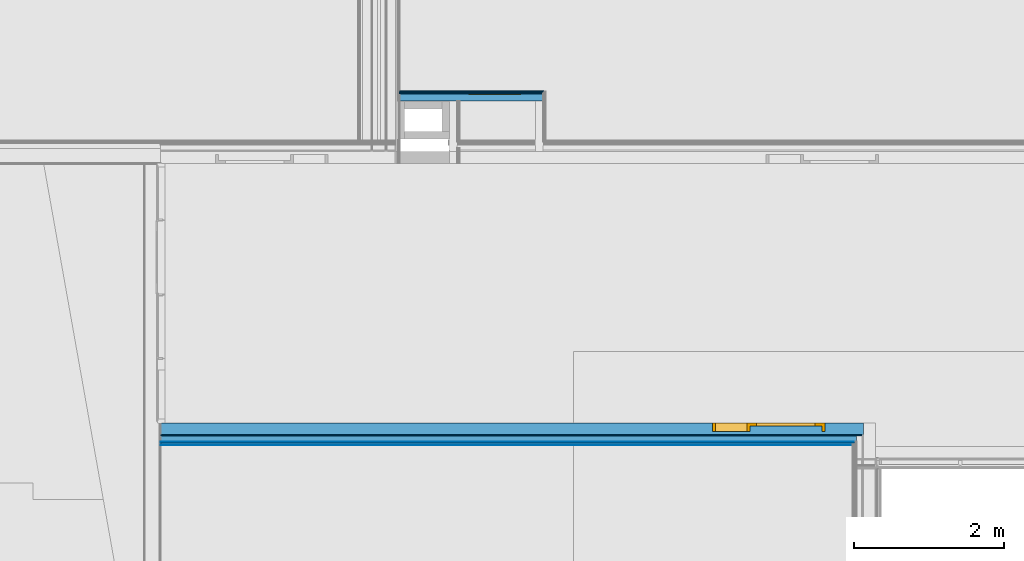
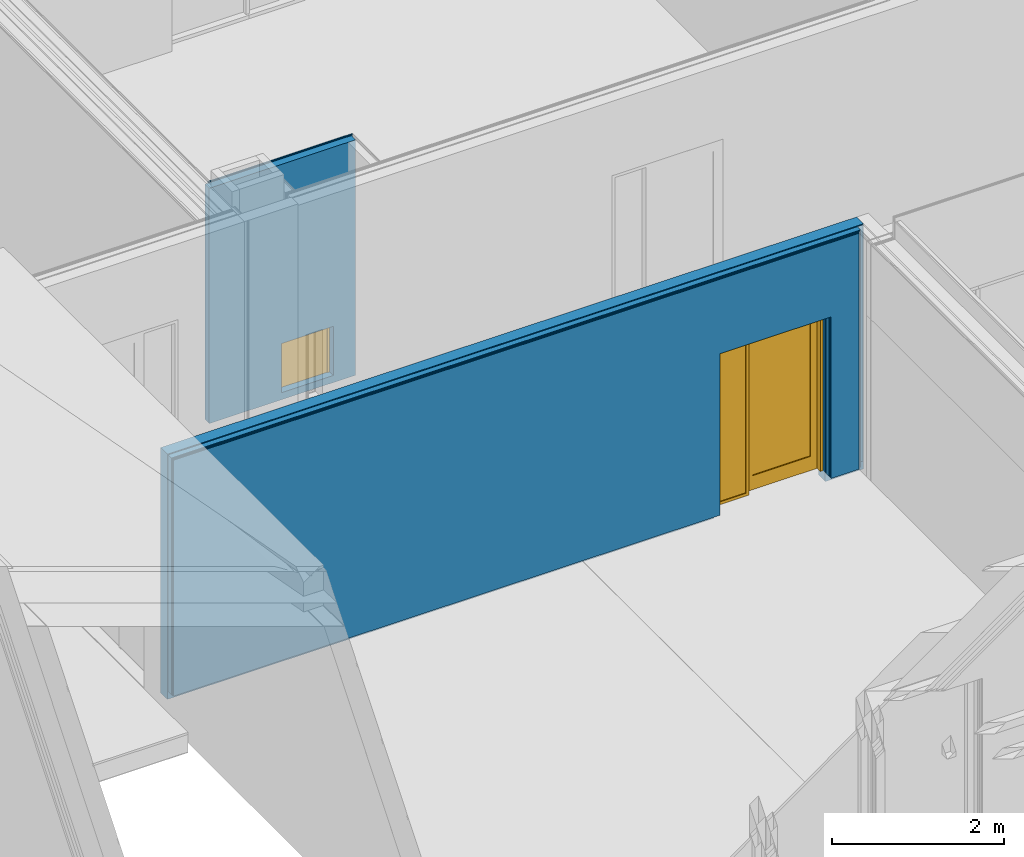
# One storey, part 22 of 139: 11 building element parts, 2 doors, 3 openings, 2 elements without a shape of their own.
"""IFC2X3 building model written with IfcOpenShell, lengths in millimetres."""

from ifc_helpers import new_model, entity, si_unit, converted_unit, derived_unit, money_unit, direction, frame, origin_with_axes, place, context, subcontext, project, spatial, open_shell, faceted_brep, surface_model, source, transform, mapped, material, type_object, element, fill, aggregate, save


model = new_model("IFC2X3")

# Units and contexts
model_context = context("Model", 3, precision=0.01, world=origin_with_axes(), true_north=direction((0.0, 1.0)))
body_context = subcontext(model_context, "Body", "Model", "MODEL_VIEW")
ifc_project = project(units=[si_unit("LENGTHUNIT", "METRE", prefix="MILLI"), si_unit("AREAUNIT", "SQUARE_METRE"), si_unit("VOLUMEUNIT", "CUBIC_METRE"), converted_unit("PLANEANGLEUNIT", "DEGREE", entity("IfcPlaneAngleMeasure", 0.0174532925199), si_unit("PLANEANGLEUNIT", "RADIAN"), dimensions=[0, 0, 0, 0, 0, 0, 0]), money_unit("EUR"), converted_unit("TIMEUNIT", "Year", entity("IfcTimeMeasure", 31556926.0), si_unit("TIMEUNIT", "SECOND"), dimensions=[0, 0, 1, 0, 0, 0, 0]), si_unit("MASSUNIT", "GRAM", prefix="KILO"), si_unit("THERMODYNAMICTEMPERATUREUNIT", "DEGREE_CELSIUS"), si_unit("LUMINOUSINTENSITYUNIT", "LUMEN"), si_unit("ENERGYUNIT", "JOULE", prefix="MEGA"), derived_unit("THERMALCONDUCTANCEUNIT", [(si_unit("POWERUNIT", "WATT"), 1), (si_unit("LENGTHUNIT", "METRE"), -1), (si_unit("THERMODYNAMICTEMPERATUREUNIT", "KELVIN"), -1)]), derived_unit("SPECIFICHEATCAPACITYUNIT", [(si_unit("ENERGYUNIT", "JOULE"), 1), (si_unit("MASSUNIT", "GRAM", prefix="KILO"), -1), (si_unit("THERMODYNAMICTEMPERATUREUNIT", "KELVIN"), -1)]), derived_unit("MASSDENSITYUNIT", [(si_unit("MASSUNIT", "GRAM", prefix="KILO"), 1), (si_unit("VOLUMEUNIT", "CUBIC_METRE"), -1)])], contexts=[model_context])

# Site, building, storey
site_placement = place(None, origin_with_axes())
site = spatial("IfcSite", under=ifc_project, at=site_placement, Name="Kolde pst 67a", CompositionType="ELEMENT")
building_placement = place(site_placement, origin_with_axes())
building = spatial("IfcBuilding", under=site, at=building_placement, Name="Riigigümnaasium", CompositionType="ELEMENT")
storey_placement = place(building_placement, frame((0.0, 0.0, 4600.0), z_axis=(0.0, 0.0, 1.0), x_axis=(1.0, 0.0, 0.0)))
storey = spatial("IfcBuildingStorey", under=building, at=storey_placement, Name="2. korrus", CompositionType="ELEMENT", Elevation=4600.0)

# Door
door_style_1 = type_object("IfcDoorStyle", Name="Door with Sidelight on Side 2 25", ConstructionType="NOTDEFINED", OperationType="SINGLE_SWING_RIGHT", ParameterTakesPrecedence=False, Sizeable=False)
shared_shape_1 = source(origin_with_axes(), body_context, "Body", "SurfaceModel", [
    faceted_brep([(-750.0, 0.0, 0.0), (-710.0, 0.0, 0.0), (-710.0, -115.0, 0.0), (-750.0, -115.0, 0.0), (-750.0, 0.0, 2260.0), (-710.0, 0.0, 2260.0), (-710.0, 0.0, 40.0), (-710.0, -115.0, 40.0), (-710.0, -115.0, 2260.0), (-750.0, -115.0, 2260.0)], [[[0, 1, 2, 3]], [[0, 4, 5, 6, 1]], [[1, 6, 7, 2]], [[3, 2, 7, 8, 9]], [[4, 0, 3, 9]], [[5, 4, 9, 8]], [[6, 5, 8, 7]]]),
    faceted_brep([(-250.0, -40.0, 0.0), (-250.0, -40.0, 2260.0), (-250.0, -115.0, 2260.0), (-250.0, -115.0, 0.0), (-262.0, -40.0, 2260.0), (-262.0, -40.0, 0.0), (-262.0, 0.0, 2260.0), (-290.0, 0.0, 2260.0), (-290.0, -115.0, 2260.0), (-290.0, -115.0, 0.0), (-290.0, -115.0, 40.0), (-290.0, 0.0, 0.0), (-262.0, 0.0, 0.0), (-290.0, 0.0, 40.0)], [[[0, 1, 2, 3]], [[4, 1, 0, 5]], [[4, 6, 7, 8, 2, 1]], [[9, 3, 2, 8, 10]], [[5, 0, 3, 9, 11, 12]], [[6, 4, 5, 12]], [[6, 12, 11, 13, 7]], [[13, 10, 8, 7]], [[11, 9, 10, 13]]]),
    faceted_brep([(-710.0, 0.0, 40.0), (-710.0, 0.0, 0.0), (-710.0, -115.0, 0.0), (-710.0, -115.0, 40.0), (-290.0, 0.0, 40.0), (-290.0, 0.0, 0.0), (-290.0, -115.0, 0.0), (-290.0, -115.0, 40.0)], [[[0, 1, 2, 3]], [[0, 4, 5, 1]], [[1, 5, 6, 2]], [[3, 2, 6, 7]], [[4, 0, 3, 7]], [[5, 4, 7, 6]]]),
    faceted_brep([(722.0, -40.0, 2260.0), (710.0, -40.0, 2260.0), (710.0, -115.0, 2260.0), (750.0, -115.0, 2260.0), (750.0, 0.0, 2260.0), (722.0, 0.0, 2260.0), (722.0, -40.0, 0.0), (710.0, -40.0, 0.0), (710.0, -115.0, 0.0), (750.0, -115.0, 0.0), (750.0, 0.0, 0.0), (722.0, 0.0, 0.0)], [[[0, 1, 2, 3, 4, 5]], [[1, 0, 6, 7]], [[1, 7, 8, 2]], [[3, 2, 8, 9]], [[4, 3, 9, 10]], [[11, 5, 4, 10]], [[0, 5, 11, 6]], [[6, 11, 10, 9, 8, 7]]]),
    faceted_brep([(-262.0, 0.0, 2272.0), (-262.0, 0.0, 2260.0), (-290.0, 0.0, 2260.0), (-710.0, 0.0, 2260.0), (-750.0, 0.0, 2260.0), (-750.0, 0.0, 2300.0), (750.0, 0.0, 2300.0), (750.0, 0.0, 2260.0), (722.0, 0.0, 2260.0), (722.0, 0.0, 2272.0), (-262.0, -40.0, 2272.0), (-262.0, -40.0, 2260.0), (710.0, -40.0, 2260.0), (710.0, -115.0, 2260.0), (-250.0, -115.0, 2260.0), (-290.0, -115.0, 2260.0), (-710.0, -115.0, 2260.0), (-750.0, -115.0, 2260.0), (-750.0, -115.0, 2300.0), (750.0, -115.0, 2300.0), (750.0, -115.0, 2260.0), (722.0, -40.0, 2260.0), (722.0, -40.0, 2272.0)], [[[0, 1, 2, 3, 4, 5, 6, 7, 8, 9]], [[1, 0, 10, 11]], [[11, 12, 13, 14, 15, 2, 1]], [[2, 15, 16, 3]], [[3, 16, 17, 4]], [[4, 17, 18, 5]], [[5, 18, 19, 6]], [[6, 19, 20, 7]], [[21, 8, 7, 20, 13, 12]], [[9, 8, 21, 22]], [[0, 9, 22, 10]], [[21, 12, 11, 10, 22]], [[13, 20, 19, 18, 17, 16, 15, 14]]]),
    faceted_brep([(722.0, 0.0, 200.0), (722.0, -40.0, 200.0), (622.0, -40.0, 200.0), (622.0, 0.0, 200.0), (722.0, 0.0, 2172.0), (722.0, -40.0, 2172.0), (622.0, -40.0, 2172.0), (622.0, 0.0, 2172.0)], [[[0, 1, 2, 3]], [[4, 5, 1, 0]], [[1, 5, 6, 2]], [[3, 2, 6, 7]], [[0, 3, 7, 4]], [[7, 6, 5, 4]]]),
    faceted_brep([(-262.0, 0.0, 200.0), (-262.0, -40.0, 200.0), (-262.0, -40.0, 2172.0), (-262.0, 0.0, 2172.0), (-162.0, 0.0, 200.0), (-162.0, -40.0, 200.0), (-162.0, -40.0, 2172.0), (-162.0, 0.0, 2172.0)], [[[0, 1, 2, 3]], [[4, 5, 1, 0]], [[1, 5, 6, 2]], [[3, 2, 6, 7]], [[0, 3, 7, 4]], [[7, 6, 5, 4]]]),
    faceted_brep([(722.0, 0.0, 0.0), (722.0, -40.0, 0.0), (-262.0, -40.0, 0.0), (-262.0, 0.0, 0.0), (722.0, 0.0, 200.0), (722.0, -40.0, 200.0), (622.0, -40.0, 200.0), (-162.0, -40.0, 200.0), (-262.0, -40.0, 200.0), (-262.0, 0.0, 200.0), (-162.0, 0.0, 200.0), (622.0, 0.0, 200.0)], [[[0, 1, 2, 3]], [[4, 5, 1, 0]], [[1, 5, 6, 7, 8, 2]], [[3, 2, 8, 9]], [[0, 3, 9, 10, 11, 4]], [[11, 6, 5, 4]], [[10, 7, 6, 11]], [[9, 8, 7, 10]]]),
    faceted_brep([(722.0, 0.0, 2272.0), (722.0, -40.0, 2272.0), (722.0, -40.0, 2172.0), (722.0, 0.0, 2172.0), (-262.0, 0.0, 2272.0), (-262.0, -40.0, 2272.0), (-262.0, -40.0, 2172.0), (-162.0, -40.0, 2172.0), (622.0, -40.0, 2172.0), (622.0, 0.0, 2172.0), (-162.0, 0.0, 2172.0), (-262.0, 0.0, 2172.0)], [[[0, 1, 2, 3]], [[4, 5, 1, 0]], [[1, 5, 6, 7, 8, 2]], [[3, 2, 8, 9]], [[0, 3, 9, 10, 11, 4]], [[11, 6, 5, 4]], [[10, 7, 6, 11]], [[9, 8, 7, 10]]]),
    surface_model("IfcShellBasedSurfaceModel", [(622.0, -14.0, 200.0), (-162.0, -14.0, 200.0), (-162.0, -14.0, 2172.0), (622.0, -14.0, 2172.0)], [open_shell([[[0, 1, 2, 3]]])]),
    surface_model("IfcShellBasedSurfaceModel", [(622.0, -26.0, 200.0), (622.0, -26.0, 2172.0), (-162.0, -26.0, 2172.0), (-162.0, -26.0, 200.0)], [open_shell([[[0, 1, 2, 3]]])]),
    surface_model("IfcShellBasedSurfaceModel", [(-710.0, -91.0, 40.0), (-710.0, -91.0, 2260.0), (-290.0, -91.0, 2260.0), (-290.0, -91.0, 40.0)], [open_shell([[[0, 1, 2, 3]]])]),
    surface_model("IfcShellBasedSurfaceModel", [(-710.0, -103.0, 40.0), (-290.0, -103.0, 40.0), (-290.0, -103.0, 2260.0), (-710.0, -103.0, 2260.0)], [open_shell([[[0, 1, 2, 3]]])]),
])
wall_1_placement = place(storey_placement, frame((3250.03768339, 55889.9944255, -130.0), z_axis=(0.0, 0.0, 1.0), x_axis=(0.999999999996, -2.92227305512e-06, 0.0)))
opening_1_placement = place(wall_1_placement, frame((8104.96061449, 0.0, 130.0), z_axis=(0.0, 0.0, 1.0), x_axis=(1.0, 0.0, 0.0)))
door_1_placement = place(opening_1_placement, frame((-750.0, 0.0, 0.0), z_axis=(0.0, 0.0, 1.0), x_axis=(1.0, 0.0, 0.0)))
door_1 = element("IfcDoor", 1, at=door_1_placement, inside=storey, type_object=door_style_1, Name="Siseuks", ObjectType="DOOR", OverallHeight=2300.0, OverallWidth=1500.0, context=body_context, shape_type="MappedRepresentation", body=[
    mapped(shared_shape_1, transform((750.0, 0.0, 0.0))),
])

door_style_2 = type_object("IfcDoorStyle", Name="Door 25", ConstructionType="NOTDEFINED", OperationType="SINGLE_SWING_LEFT", ParameterTakesPrecedence=False, Sizeable=False)
shared_shape_2 = source(origin_with_axes(), body_context, "Body", "Brep", [
    faceted_brep([(320.0, -40.0, 0.0), (320.0, -50.0, 0.0), (320.0, -50.0, 670.0), (320.0, -40.0, 670.0), (332.0, -40.0, 0.0), (332.0, 0.0, 0.0), (350.0, 0.0, 0.0), (350.0, -50.0, 0.0), (350.0, -50.0, 670.0), (332.0, -40.0, 670.0), (350.0, 0.0, 670.0), (332.0, 0.0, 670.0)], [[[0, 1, 2, 3]], [[4, 5, 6, 7, 1, 0]], [[1, 7, 8, 2]], [[9, 3, 2, 8, 10, 11]], [[9, 4, 0, 3]], [[11, 5, 4, 9]], [[11, 10, 6, 5]], [[6, 10, 8, 7]]]),
    faceted_brep([(-332.0, -40.0, 670.0), (-332.0, 0.0, 670.0), (-350.0, 0.0, 670.0), (-350.0, -50.0, 670.0), (-320.0, -50.0, 670.0), (-320.0, -40.0, 670.0), (-332.0, -40.0, 0.0), (-332.0, 0.0, 0.0), (-350.0, 0.0, 0.0), (-350.0, -50.0, 0.0), (-320.0, -50.0, 0.0), (-320.0, -40.0, 0.0)], [[[0, 1, 2, 3, 4, 5]], [[0, 6, 7, 1]], [[7, 8, 2, 1]], [[2, 8, 9, 3]], [[3, 9, 10, 4]], [[5, 4, 10, 11]], [[5, 11, 6, 0]], [[6, 11, 10, 9, 8, 7]]]),
    faceted_brep([(332.0, 0.0, 682.0), (-332.0, 0.0, 682.0), (-332.0, 0.0, 670.0), (-350.0, 0.0, 670.0), (-350.0, 0.0, 700.0), (350.0, 0.0, 700.0), (350.0, 0.0, 670.0), (332.0, 0.0, 670.0), (332.0, -40.0, 682.0), (-332.0, -40.0, 682.0), (-332.0, -40.0, 670.0), (-320.0, -40.0, 670.0), (-320.0, -50.0, 670.0), (-350.0, -50.0, 670.0), (-350.0, -50.0, 700.0), (350.0, -50.0, 700.0), (350.0, -50.0, 670.0), (332.0, -40.0, 670.0), (320.0, -50.0, 670.0), (320.0, -40.0, 670.0)], [[[0, 1, 2, 3, 4, 5, 6, 7]], [[0, 8, 9, 1]], [[1, 9, 10, 2]], [[10, 11, 12, 13, 3, 2]], [[4, 3, 13, 14]], [[5, 4, 14, 15]], [[6, 5, 15, 16]], [[17, 7, 6, 16, 18, 19]], [[7, 17, 8, 0]], [[10, 9, 8, 17, 19, 11]], [[19, 18, 12, 11]], [[12, 18, 16, 15, 14, 13]]]),
    faceted_brep([(-332.0, 0.0, 0.0), (332.0, 0.0, 0.0), (332.0, -40.0, 0.0), (-332.0, -40.0, 0.0), (-332.0, 0.0, 682.0), (332.0, 0.0, 682.0), (332.0, -40.0, 682.0), (-332.0, -40.0, 682.0)], [[[0, 1, 2, 3]], [[0, 4, 5, 1]], [[1, 5, 6, 2]], [[3, 2, 6, 7]], [[4, 0, 3, 7]], [[5, 4, 7, 6]]]),
])
wall_2_placement = place(storey_placement, frame((5884.99783254, 60314.9986956, 0.0), z_axis=(0.0, 0.0, 1.0), x_axis=(1.0, 0.0, 0.0)))
opening_2_placement = place(wall_2_placement, frame((1816.83410384, 0.0, 100.0), z_axis=(0.0, 0.0, 1.0), x_axis=(1.0, 0.0, 0.0)))
door_2_placement = place(opening_2_placement, frame((-350.0, 0.0, 0.0), z_axis=(0.0, 0.0, 1.0), x_axis=(1.0, 0.0, 0.0)))
door_2 = element("IfcDoor", 2, at=door_2_placement, inside=storey, type_object=door_style_2, Name="Hooldusluuk vastavalt SA osale", ObjectType="DOOR", OverallHeight=700.0, OverallWidth=700.0, context=body_context, shape_type="MappedRepresentation", body=[
    mapped(shared_shape_2, transform((350.0, 0.0, 0.0))),
])

# Wall, opening
wall_type_1 = type_object("IfcWallType", Name="SS-CLT-16/1_vill75+krohv 52 dB 300", PredefinedType="NOTDEFINED")
wall_1 = element("IfcWall", 3, at=wall_1_placement, inside=storey, type_object=wall_type_1, Name="Sisesein")
opening_1 = element("IfcOpeningElement", 4, at=opening_1_placement, cuts=wall_1, Name="Siseuks", context=body_context, shape_type="Brep", body=[
    faceted_brep([(750.0, -300.0, 2300.0), (750.0, -300.0, 0.0), (750.0, 600.0, 0.0), (750.0, 600.0, 2300.0), (-750.0, -300.0, 2300.0), (-750.0, -300.0, 0.0), (-750.0, 600.0, 0.0), (-750.0, 600.0, 2300.0)], [[[0, 1, 2, 3]], [[0, 4, 5, 1]], [[1, 5, 6, 2]], [[3, 2, 6, 7]], [[4, 0, 3, 7]], [[5, 4, 7, 6]]]),
])

fill(opening_1, door_1)

# Building element part
ifc_material_1 = material(Name="_KANDETARIND - CLT ristkihtliimpuit vastavalt EK osale, CLT paigaldusvuugid teibitakse ROTHOBLAAS teibiga")
building_element_part_1_placement = place(wall_1_placement, origin_with_axes())
building_element_part_1 = element("IfcBuildingElementPart", 5, at=building_element_part_1_placement, material=ifc_material_1, Name="_KANDETARIND - CLT ristkihtliimpuit vastavalt EK osale, CLT paigaldusvuugid teibitakse ROTHOBLAAS teibiga", context=body_context, shape_type="Brep", body=[
    faceted_brep([(0.0, 0.0, 3489.0), (9369.95981086, 0.0, 3489.0), (9369.95981086, 0.0, 0.0), (8854.96061449, 0.0, 0.0), (8854.96061449, 0.0, 130.0), (8854.96061449, 0.0, 2430.0), (7354.96061449, 0.0, 2430.0), (7354.96061449, 0.0, 130.0), (7354.96061449, 0.0, 0.0), (0.0, 0.0, 0.0), (9369.96027842, -160.0, 3489.0), (0.0, -160.0, 3489.0), (9369.96027842, -160.0, 0.0), (8854.96061449, -160.0, 0.0), (8854.96061449, -160.0, 130.0), (8854.96061449, -160.0, 2430.0), (7354.96061449, -160.0, 2430.0), (7354.96061449, -160.0, 130.0), (7354.96061449, -160.0, 0.0), (0.0, -160.0, 0.0)], [[[0, 1, 2, 3, 4, 5, 6, 7, 8, 9]], [[10, 1, 0, 11]], [[1, 10, 12, 2]], [[13, 3, 2, 12]], [[13, 14, 4, 3]], [[15, 5, 4, 14]], [[16, 6, 5, 15]], [[17, 7, 6, 16]], [[8, 7, 17, 18]], [[8, 18, 19, 9]], [[11, 0, 9, 19]], [[10, 11, 19, 18, 17, 16, 15, 14, 13, 12]]]),
])

ifc_material_2 = material(Name="_ÕHKVAHE")
building_element_part_2_placement = place(wall_1_placement, origin_with_axes())
building_element_part_2 = element("IfcBuildingElementPart", 6, at=building_element_part_2_placement, material=ifc_material_2, Name="_ÕHKVAHE", context=body_context, shape_type="Brep", body=[
    faceted_brep([(0.0, -160.0, 3489.0), (9354.96027842, -160.0, 3489.0), (9354.96027842, -160.0, 127.0), (8854.96061449, -160.0, 127.0), (8854.96061449, -160.0, 130.0), (8854.96061449, -160.0, 2430.0), (7354.96061449, -160.0, 2430.0), (7354.96061449, -160.0, 130.0), (7354.96061449, -160.0, 127.0), (0.0, -160.0, 127.0), (9354.96032226, -175.0, 3489.0), (0.0, -175.0, 3489.0), (9354.96032226, -175.0, 127.0), (8854.96061449, -175.0, 127.0), (8854.96061449, -175.0, 130.0), (8854.96061449, -175.0, 2430.0), (7354.96061449, -175.0, 2430.0), (7354.96061449, -175.0, 130.0), (7354.96061449, -175.0, 127.0), (0.0, -175.0, 127.0)], [[[0, 1, 2, 3, 4, 5, 6, 7, 8, 9]], [[10, 1, 0, 11]], [[1, 10, 12, 2]], [[13, 3, 2, 12]], [[13, 14, 4, 3]], [[15, 5, 4, 14]], [[16, 6, 5, 15]], [[17, 7, 6, 16]], [[8, 7, 17, 18]], [[8, 18, 19, 9]], [[11, 0, 9, 19]], [[10, 11, 19, 18, 17, 16, 15, 14, 13, 12]]]),
])

ifc_material_3 = material(Name="_KARKASS - metallkarkass CW 75/50/06 ja UW 75/40/06, samm 600, vahel mineraalvill, helineeldetegur αw = 1.0,  ISOVER ACOUSTIC 75mm või samaväärne")
building_element_part_3_placement = place(wall_1_placement, origin_with_axes())
building_element_part_3 = element("IfcBuildingElementPart", 7, at=building_element_part_3_placement, material=ifc_material_3, Name="_KARKASS - metallkarkass CW 75/50/06 ja UW 75/40/06, samm 600, vahel mineraalvill, helineeldetegur αw = 1.0,  ISOVER ACOUSTIC 75mm või samaväärne", context=body_context, shape_type="Brep", body=[
    faceted_brep([(0.0, -175.0, 3489.0), (9279.96032226, -175.0, 3489.0), (9279.96032226, -175.0, 127.0), (8854.96061449, -175.0, 127.0), (8854.96061449, -175.0, 130.0), (8854.96061449, -175.0, 2430.0), (7354.96061449, -175.0, 2430.0), (7354.96061449, -175.0, 130.0), (7354.96061449, -175.0, 127.0), (0.0, -175.0, 127.0), (9279.96054143, -250.0, 3489.0), (0.0, -250.0, 3489.0), (9279.96054143, -250.0, 127.0), (8854.96061449, -250.0, 127.0), (8854.96061449, -250.0, 130.0), (8854.96061449, -250.0, 2430.0), (7354.96061449, -250.0, 2430.0), (7354.96061449, -250.0, 130.0), (7354.96061449, -250.0, 127.0), (0.0, -250.0, 127.0)], [[[0, 1, 2, 3, 4, 5, 6, 7, 8, 9]], [[10, 1, 0, 11]], [[1, 10, 12, 2]], [[13, 3, 2, 12]], [[13, 14, 4, 3]], [[15, 5, 4, 14]], [[16, 6, 5, 15]], [[17, 7, 6, 16]], [[8, 7, 17, 18]], [[8, 18, 19, 9]], [[11, 0, 9, 19]], [[10, 11, 19, 18, 17, 16, 15, 14, 13, 12]]]),
])

ifc_material_4 = material(Name="_PLAATMATERJAL - OSB3 plaat")
building_element_part_4_placement = place(wall_1_placement, origin_with_axes())
building_element_part_4 = element("IfcBuildingElementPart", 8, at=building_element_part_4_placement, material=ifc_material_4, Name="_PLAATMATERJAL - OSB3 plaat", context=body_context, shape_type="Brep", body=[
    faceted_brep([(0.0, -250.0, 3489.0), (9269.96054143, -250.0, 3489.0), (9269.96054143, -250.0, 127.0), (8854.96061449, -250.0, 127.0), (8854.96061449, -250.0, 130.0), (8854.96061449, -250.0, 2430.0), (7354.96061449, -250.0, 2430.0), (7354.96061449, -250.0, 130.0), (7354.96061449, -250.0, 127.0), (0.0, -250.0, 127.0), (9269.96057065, -260.0, 3489.0), (0.0, -260.0, 3489.0), (9269.96057065, -260.0, 127.0), (8854.96061449, -260.0, 127.0), (8854.96061449, -260.0, 130.0), (8854.96061449, -260.0, 2430.0), (7354.96061449, -260.0, 2430.0), (7354.96061449, -260.0, 130.0), (7354.96061449, -260.0, 127.0), (0.0, -260.0, 127.0)], [[[0, 1, 2, 3, 4, 5, 6, 7, 8, 9]], [[10, 1, 0, 11]], [[1, 10, 12, 2]], [[13, 3, 2, 12]], [[13, 14, 4, 3]], [[15, 5, 4, 14]], [[16, 6, 5, 15]], [[17, 7, 6, 16]], [[8, 7, 17, 18]], [[8, 18, 19, 9]], [[11, 0, 9, 19]], [[10, 11, 19, 18, 17, 16, 15, 14, 13, 12]]]),
])

ifc_material_5 = material(Name="_PLAATMATERJAL - tuletõkkekipsplaat, Knauf Red GKF või samaväärne")
building_element_part_5_placement = place(wall_1_placement, origin_with_axes())
building_element_part_5 = element("IfcBuildingElementPart", 9, at=building_element_part_5_placement, material=ifc_material_5, Name="_PLAATMATERJAL - tuletõkkekipsplaat, Knauf Red GKF või samaväärne", context=body_context, shape_type="Brep", body=[
    faceted_brep([(0.0, -260.0, 3489.0), (9254.96057065, -260.0, 3489.0), (9254.96057065, -260.0, 127.0), (8854.96061449, -260.0, 127.0), (8854.96061449, -260.0, 130.0), (8854.96061449, -260.0, 2430.0), (7354.96061449, -260.0, 2430.0), (7354.96061449, -260.0, 130.0), (7354.96061449, -260.0, 127.0), (0.0, -260.0, 127.0), (9254.96061448, -275.0, 3489.0), (0.0, -275.0, 3489.0), (9254.96061448, -275.0, 127.0), (8854.96061449, -275.0, 127.0), (8854.96061449, -275.0, 130.0), (8854.96061449, -275.0, 2430.0), (7354.96061449, -275.0, 2430.0), (7354.96061449, -275.0, 130.0), (7354.96061449, -275.0, 127.0), (0.0, -275.0, 127.0)], [[[0, 1, 2, 3, 4, 5, 6, 7, 8, 9]], [[10, 1, 0, 11]], [[1, 10, 12, 2]], [[13, 3, 2, 12]], [[13, 14, 4, 3]], [[15, 5, 4, 14]], [[16, 6, 5, 15]], [[17, 7, 6, 16]], [[8, 7, 17, 18]], [[8, 18, 19, 9]], [[11, 0, 9, 19]], [[10, 11, 19, 18, 17, 16, 15, 14, 13, 12]]]),
])

building_element_part_6_placement = place(wall_1_placement, origin_with_axes())
building_element_part_6 = element("IfcBuildingElementPart", 10, at=building_element_part_6_placement, material=ifc_material_5, Name="_PLAATMATERJAL - tuletõkkekipsplaat, Knauf Red GKF või samaväärne", context=body_context, shape_type="Brep", body=[
    faceted_brep([(0.0, -275.0, 3489.0), (9239.96061448, -275.0, 3489.0), (9239.96061448, -275.0, 127.0), (8854.96061449, -275.0, 127.0), (8854.96061449, -275.0, 130.0), (8854.96061449, -275.0, 2430.0), (7354.96061449, -275.0, 2430.0), (7354.96061449, -275.0, 130.0), (7354.96061449, -275.0, 127.0), (0.0, -275.0, 127.0), (9239.96065832, -290.0, 3489.0), (0.0, -290.0, 3489.0), (9239.96065832, -290.0, 127.0), (8854.96061449, -290.0, 127.0), (8854.96061449, -290.0, 130.0), (8854.96061449, -290.0, 2430.0), (7354.96061449, -290.0, 2430.0), (7354.96061449, -290.0, 130.0), (7354.96061449, -290.0, 127.0), (0.0, -290.0, 127.0)], [[[0, 1, 2, 3, 4, 5, 6, 7, 8, 9]], [[10, 1, 0, 11]], [[1, 10, 12, 2]], [[13, 3, 2, 12]], [[13, 14, 4, 3]], [[15, 5, 4, 14]], [[16, 6, 5, 15]], [[17, 7, 6, 16]], [[8, 7, 17, 18]], [[8, 18, 19, 9]], [[11, 0, 9, 19]], [[10, 11, 19, 18, 17, 16, 15, 14, 13, 12]]]),
])

ifc_material_6 = material(Name="_VIIMISTLUSKIHT - viimistlus vastavalt SA osale")
building_element_part_7_placement = place(wall_1_placement, origin_with_axes())
building_element_part_7 = element("IfcBuildingElementPart", 11, at=building_element_part_7_placement, material=ifc_material_6, Name="_VIIMISTLUSKIHT - viimistlus vastavalt SA osale", context=body_context, shape_type="Brep", body=[
    faceted_brep([(0.0, -290.0, 3489.0), (9229.96065832, -290.0, 3489.0), (9229.96065832, -290.0, 130.0), (8854.96061449, -290.0, 130.0), (8854.96061449, -290.0, 2430.0), (7354.96061449, -290.0, 2430.0), (7354.96061449, -290.0, 130.0), (0.0, -290.0, 130.0), (9229.96068754, -300.0, 3489.0), (0.0, -300.0, 3489.0), (9229.96068754, -300.0, 130.0), (8854.96061449, -300.0, 130.0), (8854.96061449, -300.0, 2430.0), (7354.96061449, -300.0, 2430.0), (7354.96061449, -300.0, 130.0), (0.0, -300.0, 130.0)], [[[0, 1, 2, 3, 4, 5, 6, 7]], [[8, 1, 0, 9]], [[1, 8, 10, 2]], [[10, 11, 3, 2]], [[12, 4, 3, 11]], [[13, 5, 4, 12]], [[14, 6, 5, 13]], [[7, 6, 14, 15]], [[9, 0, 7, 15]], [[8, 9, 15, 14, 13, 12, 11, 10]]]),
])

aggregate(wall_1, [building_element_part_1, building_element_part_2, building_element_part_3, building_element_part_4, building_element_part_5, building_element_part_6, building_element_part_7])

# Wall, opening
wall_type_2 = type_object("IfcWallType", Name="SS-MK-10/6_šahti sein+krohv 40 dB 135", PredefinedType="NOTDEFINED")
wall_2 = element("IfcWall", 12, at=wall_2_placement, inside=storey, type_object=wall_type_2, Name="Varisein")
opening_2 = element("IfcOpeningElement", 13, at=opening_2_placement, cuts=wall_2, Name="Hooldusluuk vastavalt SA osale", context=body_context, shape_type="Brep", body=[
    faceted_brep([(-350.0, 270.0, 700.0), (-350.0, 270.0, 0.0), (-350.0, -135.0, 0.0), (-350.0, -135.0, 700.0), (350.0, 270.0, 700.0), (350.0, 270.0, 0.0), (350.0, -135.0, 0.0), (350.0, -135.0, 700.0)], [[[0, 1, 2, 3]], [[0, 4, 5, 1]], [[1, 5, 6, 2]], [[3, 2, 6, 7]], [[4, 0, 3, 7]], [[5, 4, 7, 6]]]),
])

fill(opening_2, door_2)

# Opening
opening_3_placement = place(wall_2_placement, frame((-5884.99783254, -60314.9986956, -4600.0), z_axis=(0.0, 0.0, 1.0), x_axis=(1.0, 0.0, 0.0)))
element("IfcOpeningElement", 14, at=opening_3_placement, cuts=wall_2, Name="Šaht", ObjectType="OPENING", context=body_context, shape_type="Brep", body=[
    faceted_brep([(6399.99791028, 59674.9979505, 11300.0), (6399.99791028, 60174.9987031, 11300.0), (6399.99791028, 60174.9987031, 1250.0), (6399.99791028, 59674.9979505, 1250.0), (7099.99737536, 59674.9979505, 11300.0), (7099.99737536, 60174.9987031, 11300.0), (7099.99737536, 60174.9987031, 1250.0), (7099.99737536, 59674.9979505, 1250.0)], [[[0, 1, 2, 3]], [[0, 4, 5, 1]], [[1, 5, 6, 2]], [[3, 2, 6, 7]], [[4, 0, 3, 7]], [[5, 4, 7, 6]]]),
])

# Building element part
building_element_part_8_placement = place(wall_2_placement, origin_with_axes())
building_element_part_8 = element("IfcBuildingElementPart", 15, at=building_element_part_8_placement, material=ifc_material_6, Name="_VIIMISTLUSKIHT - viimistlus vastavalt SA osale", context=body_context, shape_type="Brep", body=[
    faceted_brep([(554.00001107, -10.0, 3350.0), (554.00001107, -10.0, 0.0), (2501.39947199, -10.0, 0.0), (2501.39947199, -10.0, 3350.0), (1466.83410384, -10.0, 100.0), (1466.83410384, -10.0, 800.0), (2166.83410384, -10.0, 800.0), (2166.83410384, -10.0, 100.0), (554.0, 0.0, 3350.0), (554.0, 0.0, 0.0), (2501.39947199, 0.0, 0.0), (2501.39947199, 0.0, 3350.0), (1466.83410384, 0.0, 100.0), (1466.83410384, 0.0, 800.0), (2166.83410384, 0.0, 800.0), (2166.83410384, 0.0, 100.0)], [[[0, 1, 2, 3], [4, 5, 6, 7]], [[8, 9, 1, 0]], [[1, 9, 10, 2]], [[2, 10, 11, 3]], [[8, 0, 3, 11]], [[12, 13, 5, 4]], [[13, 14, 6, 5]], [[14, 15, 7, 6]], [[15, 12, 4, 7]], [[9, 8, 11, 10], [12, 15, 14, 13]]]),
])

ifc_material_7 = material(Name="_PLAATMATERJAL - kipsplaat veekindel")
building_element_part_9_placement = place(wall_2_placement, origin_with_axes())
building_element_part_9 = element("IfcBuildingElementPart", 16, at=building_element_part_9_placement, material=ifc_material_7, Name="_PLAATMATERJAL - kipsplaat veekindel", context=body_context, shape_type="Brep", body=[
    faceted_brep([(549.000024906, -22.5, 3350.0), (549.000024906, -22.5, 0.0), (2491.39947199, -22.5, 0.0), (2491.39947199, -22.5, 3350.0), (1466.83410384, -22.5, 100.0), (1466.83410384, -22.5, 800.0), (2166.83410384, -22.5, 800.0), (2166.83410384, -22.5, 100.0), (549.00001107, -10.0, 3350.0), (549.00001107, -10.0, 0.0), (2491.39947199, -10.0, 0.0), (2491.39947199, -10.0, 3350.0), (1466.83410384, -10.0, 100.0), (1466.83410384, -10.0, 800.0), (2166.83410384, -10.0, 800.0), (2166.83410384, -10.0, 100.0)], [[[0, 1, 2, 3], [4, 5, 6, 7]], [[8, 9, 1, 0]], [[1, 9, 10, 2]], [[2, 10, 11, 3]], [[8, 0, 3, 11]], [[12, 13, 5, 4]], [[13, 14, 6, 5]], [[14, 15, 7, 6]], [[15, 12, 4, 7]], [[9, 8, 11, 10], [12, 15, 14, 13]]]),
])

building_element_part_10_placement = place(wall_2_placement, origin_with_axes())
building_element_part_10 = element("IfcBuildingElementPart", 17, at=building_element_part_10_placement, material=ifc_material_7, Name="_PLAATMATERJAL - kipsplaat veekindel", context=body_context, shape_type="Brep", body=[
    faceted_brep([(549.000038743, -35.0, 3350.0), (549.000038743, -35.0, 0.0), (2478.89947199, -35.0, 0.0), (2478.89947199, -35.0, 3350.0), (1466.83410384, -35.0, 100.0), (1466.83410384, -35.0, 800.0), (2166.83410384, -35.0, 800.0), (2166.83410384, -35.0, 100.0), (549.000024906, -22.5, 3350.0), (549.000024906, -22.5, 0.0), (2478.89947199, -22.5, 0.0), (2478.89947199, -22.5, 3350.0), (1466.83410384, -22.5, 100.0), (1466.83410384, -22.5, 800.0), (2166.83410384, -22.5, 800.0), (2166.83410384, -22.5, 100.0)], [[[0, 1, 2, 3], [4, 5, 6, 7]], [[8, 9, 1, 0]], [[1, 9, 10, 2]], [[2, 10, 11, 3]], [[8, 0, 3, 11]], [[12, 13, 5, 4]], [[13, 14, 6, 5]], [[14, 15, 7, 6]], [[15, 12, 4, 7]], [[9, 8, 11, 10], [12, 15, 14, 13]]]),
])

ifc_material_8 = material(Name="_KARKASS - metallkarkass CW 100/50/06 ja UW 100/40/06, samm 600, vahel mineraalvill, helineeldetegur αw = 1.0,  ISOVER ACOUSTIC 100mm või samaväärne")
building_element_part_11_placement = place(wall_2_placement, origin_with_axes())
building_element_part_11 = element("IfcBuildingElementPart", 18, at=building_element_part_11_placement, material=ifc_material_8, Name="_KARKASS - metallkarkass CW 100/50/06 ja UW 100/40/06, samm 600, vahel mineraalvill, helineeldetegur αw = 1.0,  ISOVER ACOUSTIC 100mm või samaväärne", context=body_context, shape_type="Brep", body=[
    faceted_brep([(497.000149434, -135.0, 3350.0), (497.000149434, -135.0, 0.0), (2466.39947199, -135.0, 0.0), (2466.39947199, -135.0, 3350.0), (1466.83410384, -135.0, 100.0), (1466.83410384, -135.0, 800.0), (2166.83410384, -135.0, 800.0), (2166.83410384, -135.0, 100.0), (497.000038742, -35.0, 3350.0), (497.000038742, -35.0, 0.0), (2466.39947199, -35.0, 0.0), (2466.39947199, -35.0, 3350.0), (1466.83410384, -35.0, 100.0), (1466.83410384, -35.0, 800.0), (2166.83410384, -35.0, 800.0), (2166.83410384, -35.0, 100.0)], [[[0, 1, 2, 3], [4, 5, 6, 7]], [[8, 9, 1, 0]], [[1, 9, 10, 2]], [[2, 10, 11, 3]], [[8, 0, 3, 11]], [[12, 13, 5, 4]], [[13, 14, 6, 5]], [[14, 15, 7, 6]], [[15, 12, 4, 7]], [[9, 8, 11, 10], [12, 15, 14, 13]]]),
])

aggregate(wall_2, [building_element_part_8, building_element_part_9, building_element_part_10, building_element_part_11])

save(model, "model.ifc")
